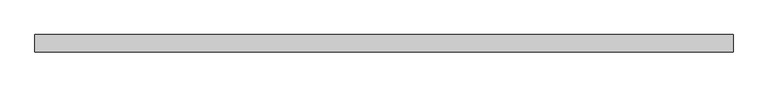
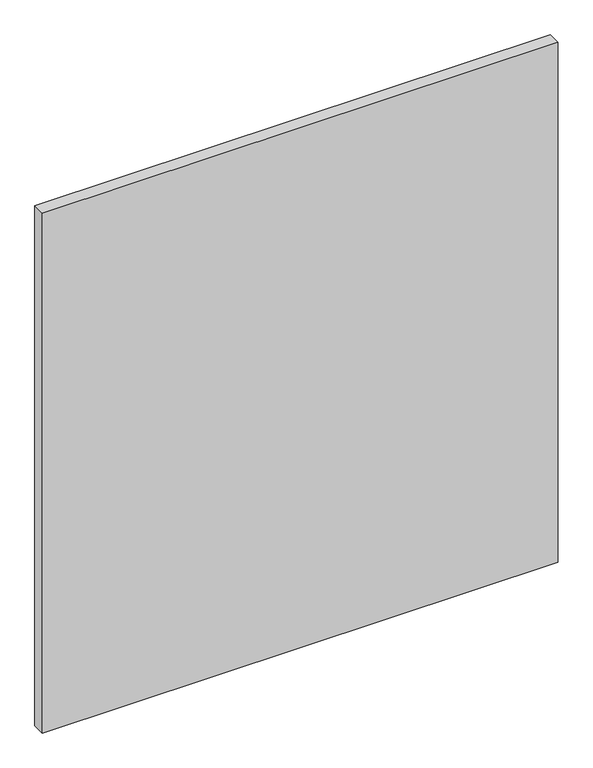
"""IFC4 building model written with IfcOpenShell, lengths in millimetres: plate geometry, 系統嵌板 : 有玻璃的."""

from ifc_helpers import new_model, si_unit, origin, origin_with_axes, place, context, project, spatial, polyline, outline, extrude, source, transform, mapped, element, save


def plate_baaea02c(model_context):
    return source(origin(), model_context, "Body", "SweptSolid", [
        extrude(outline(polyline([(503.3333333, 24.5), (-503.3333333, 24.5), (-503.3333333, 49.5), (503.3333333, 49.5), (503.3333333, 24.5)])), origin_with_axes(), (0.0, 0.0, 1.0), 1072.6738463),
    ])


if __name__ == "__main__":
    model = new_model("IFC4")
    model_context = context("Model", 3, world=origin())
    ifc_project = project(units=[si_unit("LENGTHUNIT", "METRE", prefix="MILLI")], contexts=[model_context])
    site = spatial("IfcSite", under=ifc_project)
    building = spatial("IfcBuilding", under=site)
    placement = place(None, origin())
    plate_shape = plate_baaea02c(model_context)
    element("IfcPlate", 1, ObjectType="系統嵌板 : 有玻璃的", at=placement, inside=building, context=model_context, shape_type="MappedRepresentation", body=[
        mapped(plate_shape, transform((0.0, 0.0, 0.0), x_axis=(1.0, 0.0, 0.0), y_axis=(0.0, 1.0, 0.0), z_axis=(0.0, 0.0, 1.0))),
    ])
    save(model, "model.ifc")
